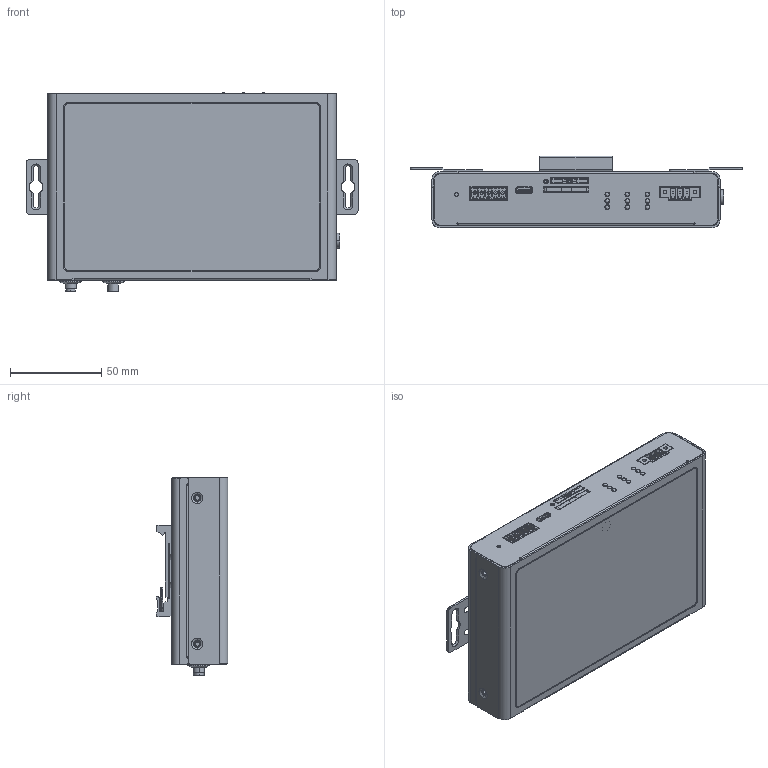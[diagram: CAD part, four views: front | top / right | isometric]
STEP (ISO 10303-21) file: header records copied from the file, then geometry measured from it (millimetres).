
FILE_DESCRIPTION((''),'2;1');
FILE_NAME('00_GCANFD-4G-100_ALL_ASM','2025-04-18T10:40:14',('hepeizong'),(''),'CREO PARAMETRIC BY PTC INC, 2021404','CREO PARAMETRIC BY PTC INC, 2021404','');
FILE_SCHEMA(('CONFIG_CONTROL_DESIGN','SHAPE_APPEARANCE_LAYERS_GROUPS'));
Products named in the file (35): 02-PCB; 2ERJRM-3P; TS0631-0951B; 0001; _A10001; _B10001; 00; 1_800; ST-USB-3316-2_3D_ASM; ADMI242C8636IFBG_2_1; ADMI242C8636IFBG_3_1; ADMI242C8636IFBG_ASM_1_ASM; ADC-5; 3D8MM_12PIN_RNM_; SIM-DAORU-C716-3_1_2021-5-31; SMA-R1SMA015; SD-PEDESTAL; RECIVES0001; 01-PCBA_ALL_ASM; 02-BOT-COVER-2; NUT_M3_6; NUT-M3; 02-BOT-COVER-ASM_ASM; 02-TOP-COVER-2; LUOMU_M40__1_; 02-TOP-COVER_ASM; GAOGUI-1__3_1_1; GAOGUI-2__2_1_1; DAOGUI-_ASM_3_ASM_1_ASM_1_ASM; GUAER; PRT0004; GUIJIAOQUAN; 01-ME-2-ALL_ASM; PVC; 00_GCANFD-4G-100_ALL_ASM
Assembly tree (55 placements, depth 4):
  00_GCANFD-4G-100_ALL_ASM
    01-PCBA_ALL_ASM
      02-PCB
      2ERJRM-3P
      TS0631-0951B
      ST-USB-3316-2_3D_ASM
        0001
        _A10001
        _B10001
        00
        1_800
      ADMI242C8636IFBG_ASM_1_ASM  x3
        ADMI242C8636IFBG_2_1
        ADMI242C8636IFBG_3_1
      ADC-5
      3D8MM_12PIN_RNM_  x2
      SIM-DAORU-C716-3_1_2021-5-31
      SMA-R1SMA015
      SD-PEDESTAL
      RECIVES0001
    01-ME-2-ALL_ASM
      02-BOT-COVER-ASM_ASM
        02-BOT-COVER-2
        NUT_M3_6  x4
        NUT-M3  x15
      02-TOP-COVER_ASM
        02-TOP-COVER-2
        LUOMU_M40__1_
      DAOGUI-_ASM_3_ASM_1_ASM_1_ASM
        GAOGUI-1__3_1_1
        GAOGUI-2__2_1_1
      GUAER
      PRT0004
      GUIJIAOQUAN  x2
    PVC
Bounding box: 182 x 39.3 x 108.84 mm (x, y, z)
Volume: 103511.6 mm3; surface area: 198120.7 mm2
Topology: 79 solids, 108 shells, 6972 faces, 19261 edges, 12440 vertices
Faces by surface type: plane 5358, cylinder 1131, cone 232, bspline 173, extrusion 46, torus 17, sphere 15
Entity records: 225991 total; most frequent: CARTESIAN_POINT 45107, ORIENTED_EDGE 31408, DIRECTION 28417, EDGE_CURVE 15987, VECTOR 12897, LINE 12851, VERTEX_POINT 10332, PRESENTATION_STYLE_ASSIGNMENT 9988
